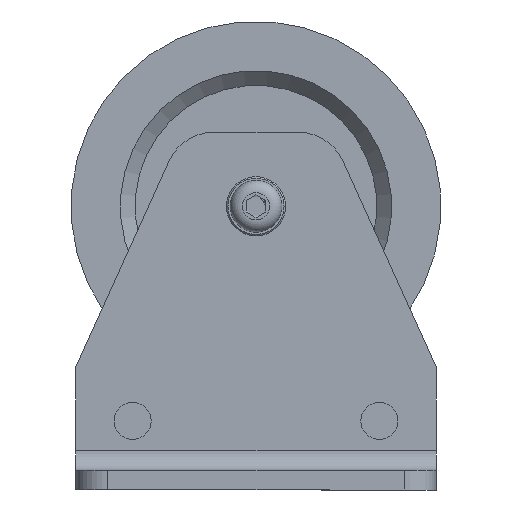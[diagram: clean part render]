
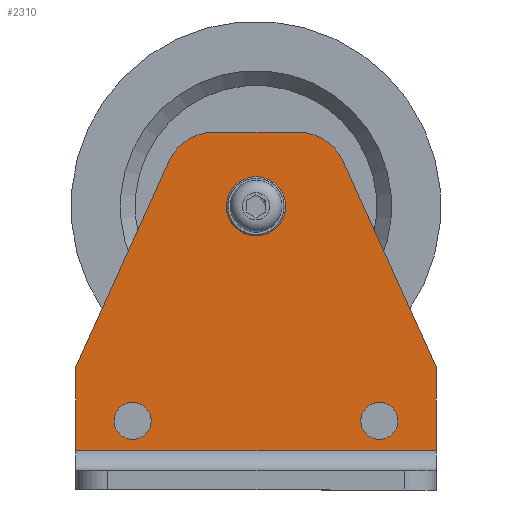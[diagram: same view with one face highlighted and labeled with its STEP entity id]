
A CAD part, front view. The second image highlights one B-rep face of the part: STEP entity #2310.
In plain terms, the highlighted planar face has unit normal (0, -1, 0) as drawn and (0, 0, 1) by its records, which use the part's own axes.
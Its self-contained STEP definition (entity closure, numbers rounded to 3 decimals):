
#213=FACE_BOUND('',#479,.T.);
#214=FACE_BOUND('',#480,.T.);
#215=FACE_BOUND('',#481,.T.);
#275=PLANE('',#2764);
#341=FACE_OUTER_BOUND('',#478,.T.);
#478=EDGE_LOOP('',(#1732,#1733,#1734,#1735,#1736,#1737,#1738,#1739));
#479=EDGE_LOOP('',(#1740));
#480=EDGE_LOOP('',(#1741));
#481=EDGE_LOOP('',(#1742));
#656=LINE('',#3960,#758);
#659=LINE('',#3966,#761);
#667=LINE('',#4000,#769);
#671=LINE('',#4009,#773);
#674=LINE('',#4016,#776);
#675=LINE('',#4018,#777);
#758=VECTOR('',#3164,10.);
#761=VECTOR('',#3169,10.);
#769=VECTOR('',#3203,10.);
#773=VECTOR('',#3213,10.);
#776=VECTOR('',#3222,10.);
#777=VECTOR('',#3225,10.);
#848=CIRCLE('',#2751,7.5);
#849=CIRCLE('',#2753,7.5);
#850=CIRCLE('',#2755,6.3);
#851=CIRCLE('',#2758,20.);
#852=CIRCLE('',#2761,20.);
#1043=VERTEX_POINT('',#3951);
#1044=VERTEX_POINT('',#3955);
#1046=VERTEX_POINT('',#3964);
#1055=VERTEX_POINT('',#3986);
#1056=VERTEX_POINT('',#3990);
#1057=VERTEX_POINT('',#3994);
#1058=VERTEX_POINT('',#3998);
#1059=VERTEX_POINT('',#3999);
#1060=VERTEX_POINT('',#4004);
#1061=VERTEX_POINT('',#4008);
#1062=VERTEX_POINT('',#4012);
#1307=EDGE_CURVE('',#1043,#1044,#656,.T.);
#1310=EDGE_CURVE('',#1046,#1044,#659,.T.);
#1321=EDGE_CURVE('',#1055,#1055,#848,.T.);
#1323=EDGE_CURVE('',#1056,#1056,#849,.T.);
#1325=EDGE_CURVE('',#1057,#1057,#850,.T.);
#1326=EDGE_CURVE('',#1058,#1059,#667,.T.);
#1329=EDGE_CURVE('',#1059,#1060,#851,.T.);
#1331=EDGE_CURVE('',#1060,#1061,#671,.T.);
#1333=EDGE_CURVE('',#1061,#1062,#852,.T.);
#1335=EDGE_CURVE('',#1062,#1046,#674,.T.);
#1336=EDGE_CURVE('',#1043,#1058,#675,.T.);
#1732=ORIENTED_EDGE('',*,*,#1307,.T.);
#1733=ORIENTED_EDGE('',*,*,#1310,.F.);
#1734=ORIENTED_EDGE('',*,*,#1335,.F.);
#1735=ORIENTED_EDGE('',*,*,#1333,.F.);
#1736=ORIENTED_EDGE('',*,*,#1331,.F.);
#1737=ORIENTED_EDGE('',*,*,#1329,.F.);
#1738=ORIENTED_EDGE('',*,*,#1326,.F.);
#1739=ORIENTED_EDGE('',*,*,#1336,.F.);
#1740=ORIENTED_EDGE('',*,*,#1321,.T.);
#1741=ORIENTED_EDGE('',*,*,#1323,.T.);
#1742=ORIENTED_EDGE('',*,*,#1325,.T.);
#2310=ADVANCED_FACE('',(#341,#213,#214,#215),#275,.T.);
#2751=AXIS2_PLACEMENT_3D('',#3988,#3189,#3190);
#2753=AXIS2_PLACEMENT_3D('',#3992,#3194,#3195);
#2755=AXIS2_PLACEMENT_3D('',#3996,#3199,#3200);
#2758=AXIS2_PLACEMENT_3D('',#4005,#3208,#3209);
#2761=AXIS2_PLACEMENT_3D('',#4013,#3217,#3218);
#2764=AXIS2_PLACEMENT_3D('',#4019,#3226,#3227);
#3164=DIRECTION('',(1.,0.,0.));
#3169=DIRECTION('',(0.,-1.,0.));
#3189=DIRECTION('center_axis',(0.,0.,-1.));
#3190=DIRECTION('ref_axis',(-1.,0.,0.));
#3194=DIRECTION('center_axis',(0.,0.,-1.));
#3195=DIRECTION('ref_axis',(-1.,0.,0.));
#3199=DIRECTION('center_axis',(0.,0.,-1.));
#3200=DIRECTION('ref_axis',(-1.,0.,0.));
#3203=DIRECTION('',(0.412,0.911,0.));
#3208=DIRECTION('center_axis',(0.,0.,-1.));
#3209=DIRECTION('ref_axis',(0.,1.,0.));
#3213=DIRECTION('',(1.,0.,0.));
#3217=DIRECTION('center_axis',(0.,0.,-1.));
#3218=DIRECTION('ref_axis',(0.911,0.412,0.));
#3222=DIRECTION('',(0.412,-0.911,0.));
#3225=DIRECTION('',(0.,1.,0.));
#3226=DIRECTION('center_axis',(0.,0.,1.));
#3227=DIRECTION('ref_axis',(1.,0.,0.));
#3951=CARTESIAN_POINT('',(-73.,16.,8.));
#3955=CARTESIAN_POINT('',(73.,16.,8.));
#3960=CARTESIAN_POINT('',(36.5,16.,8.));
#3964=CARTESIAN_POINT('',(73.,50.,8.));
#3966=CARTESIAN_POINT('',(73.,0.,8.));
#3986=CARTESIAN_POINT('',(57.5,28.,8.));
#3988=CARTESIAN_POINT('Origin',(50.,28.,8.));
#3990=CARTESIAN_POINT('',(-42.5,28.,8.));
#3992=CARTESIAN_POINT('Origin',(-50.,28.,8.));
#3994=CARTESIAN_POINT('',(6.3,115.,8.));
#3996=CARTESIAN_POINT('Origin',(0.,115.,8.));
#3998=CARTESIAN_POINT('',(-73.,50.,8.));
#3999=CARTESIAN_POINT('',(-35.32,133.247,8.));
#4000=CARTESIAN_POINT('',(-35.32,133.247,8.));
#4004=CARTESIAN_POINT('',(-17.099,145.,8.));
#4005=CARTESIAN_POINT('Origin',(-17.099,125.,8.));
#4008=CARTESIAN_POINT('',(17.099,145.,8.));
#4009=CARTESIAN_POINT('',(17.099,145.,8.));
#4012=CARTESIAN_POINT('',(35.32,133.247,8.));
#4013=CARTESIAN_POINT('Origin',(17.099,125.,8.));
#4016=CARTESIAN_POINT('',(73.,50.,8.));
#4018=CARTESIAN_POINT('',(-73.,50.,8.));
#4019=CARTESIAN_POINT('Origin',(0.,60.247,8.));
